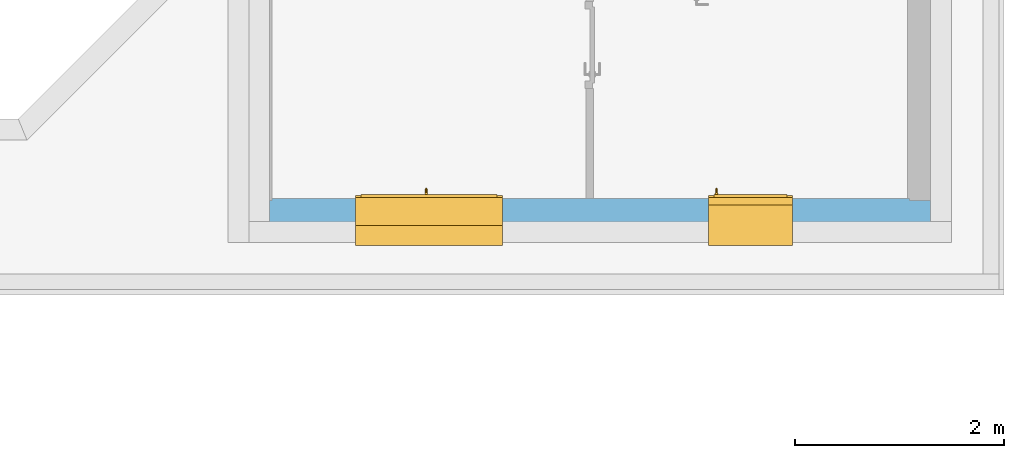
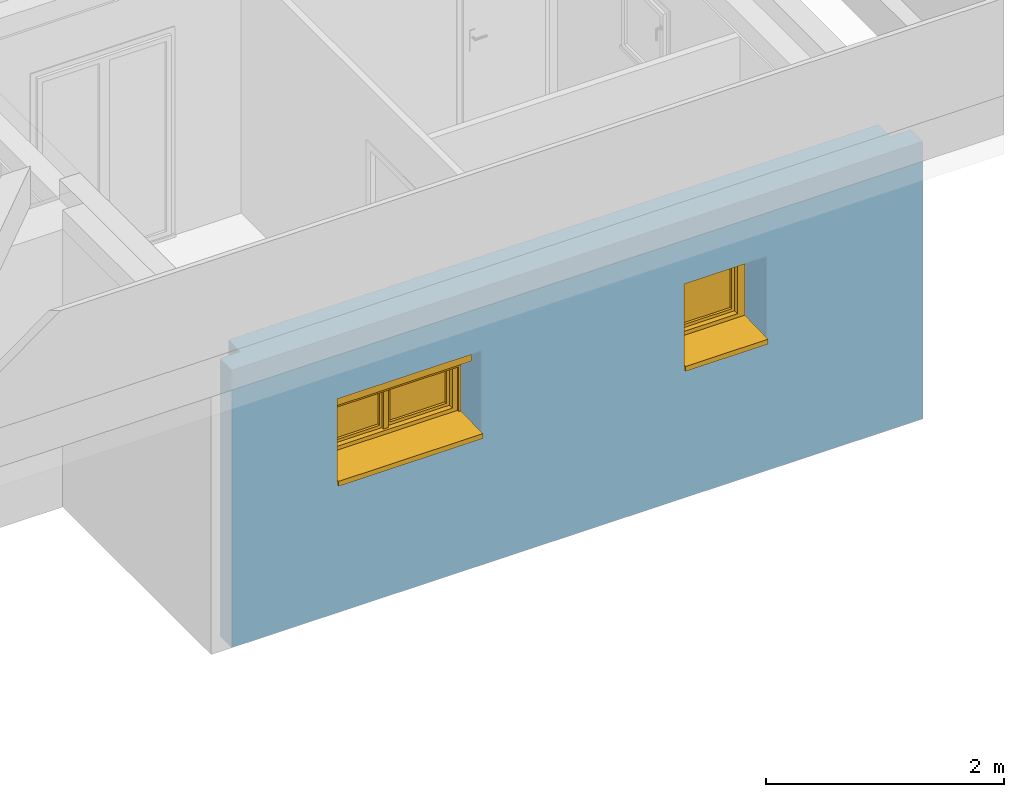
# One storey, part 13 of 16: 2 windows, 2 openings, plus 1 element that does not belong to this part.
"""IFC4 building model written with IfcOpenShell, lengths in metres."""

from ifc_helpers import new_model, entity, si_unit, converted_unit, frame, origin, origin_with_axes, place, context, subcontext, project, spatial, polyline, outline, extrude, clip, bounded_halfspace, closed_shell, open_shell, surface_model, source, transform, mapped, material, layer, layer_set, layer_usage, type_object, element, fill, save


model = new_model("IFC4")

# Units and contexts
model_context = context("Model", 3, precision=1e-05, world=origin())
body_context = subcontext(model_context, "Body", "Model", "MODEL_VIEW")
ifc_project = project(units=[si_unit("LENGTHUNIT", "METRE"), si_unit("AREAUNIT", "SQUARE_METRE"), si_unit("VOLUMEUNIT", "CUBIC_METRE"), si_unit("MASSUNIT", "GRAM", prefix="KILO"), converted_unit("PLANEANGLEUNIT", "DEGREE", entity("IfcPlaneAngleMeasure", 0.0174532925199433), si_unit("PLANEANGLEUNIT", "RADIAN"), dimensions=[0, 0, 0, 0, 0, 0, 0])], contexts=[model_context])

# Building, storey
building_placement = place(None, origin())
building = spatial("IfcBuilding", under=ifc_project, at=building_placement, Name="Projet de Construction", CompositionType="ELEMENT")
storey_placement = place(building_placement, frame((0.0, 0.0, -0.05)))
storey = spatial("IfcBuildingStorey", under=building, at=storey_placement, Name="RDC", CompositionType="ELEMENT", Elevation=-0.05)

# Wall, openings, windows
ifc_material_1 = material()
ifc_layer_1 = layer(ifc_material_1, 0.200000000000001)
ifc_material_2 = material()
ifc_layer_2 = layer(ifc_material_2, 0.2)
ifc_material_3 = material()
ifc_layer_3 = layer(ifc_material_3, 0.02)
ifc_layer_set = layer_set([ifc_layer_1, ifc_layer_2, ifc_layer_3])
ifc_layer_usage = layer_usage(ifc_layer_set, "AXIS2", "POSITIVE", 0.0)
wall_placement = place(storey_placement, frame((3.1540625, -1.20020833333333, 0.0)))
wall = element("IfcWall", 1, at=wall_placement, inside=storey, material=ifc_layer_usage, context=body_context, shape_type="Clipping", body=[
    clip(clip(extrude(outline(polyline([(0.0, 0.0), (6.71, 0.0), (6.71, 0.200000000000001), (6.51, 0.200000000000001), (6.51, 0.400000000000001), (6.31, 0.400000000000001), (6.31, 0.420000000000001), (0.22, 0.420000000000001), (0.22, 0.400000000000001), (0.2, 0.400000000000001), (0.2, 0.200000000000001), (0.0, 0.200000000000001), (0.0, 0.0)])), origin_with_axes(), (0.0, 0.0, 1.0), 2.85), bounded_halfspace(frame((3.265, 0.410000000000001, 0.05), z_axis=(0.0, 0.0, 1.0), x_axis=(0.0, -1.0, 0.0)), True, origin_with_axes(), polyline([(0.22, 0.420000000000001), (0.22, 0.400000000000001), (6.31, 0.400000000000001), (6.31, 0.420000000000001), (0.22, 0.420000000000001)]))), bounded_halfspace(frame((3.265, 0.410000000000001, 2.65), z_axis=(0.0, 0.0, -1.0), x_axis=(1.0, 0.0, 0.0)), True, origin_with_axes(), polyline([(0.22, 0.400000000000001), (6.31, 0.400000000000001), (6.31, 0.420000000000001), (0.22, 0.420000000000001), (0.22, 0.400000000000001)]))),
])
opening_1_placement = place(wall_placement, frame((5.19, 0.200000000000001, 1.35), z_axis=(0.0, -1.0, 0.0), x_axis=(0.0, 0.0, 1.0)))
opening_1 = element("IfcOpeningStandardCase", 2, at=opening_1_placement, cuts=wall, Name="Baie de fenêtre", PredefinedType="OPENING", context=body_context, shape_type="SweptSolid", body=[
    extrude(outline(polyline([(0.0, 0.8), (0.85, 0.8), (0.85, 0.0), (0.0, 0.0), (0.0, 0.8)])), origin_with_axes(), (0.0, 0.0, 1.0), 0.200000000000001),
    extrude(outline(polyline([(0.0, 0.8), (0.85, 0.8), (0.85, 0.0), (0.0, 0.0), (0.0, 0.8)])), frame((0.0, 0.0, -0.2), z_axis=(0.0, 0.0, 1.0), x_axis=(1.0, 0.0, 0.0)), (0.0, 0.0, 1.0), 0.2),
    extrude(outline(polyline([(0.0, 0.8), (0.85, 0.8), (0.85, 0.0), (0.0, 0.0), (0.0, 0.8)])), frame((0.0, 0.0, -0.22), z_axis=(0.0, 0.0, 1.0), x_axis=(1.0, 0.0, 0.0)), (0.0, 0.0, 1.0), 0.02),
])
opening_2_placement = place(wall_placement, frame((2.42, 0.200000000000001, 1.35), z_axis=(0.0, -1.0, 0.0), x_axis=(0.0, 0.0, 1.0)))
opening_2 = element("IfcOpeningStandardCase", 3, at=opening_2_placement, cuts=wall, Name="Baie de fenêtre", PredefinedType="OPENING", context=body_context, shape_type="SweptSolid", body=[
    extrude(outline(polyline([(0.0, 1.4), (0.85, 1.4), (0.85, 0.0), (0.0, 0.0), (0.0, 1.4)])), origin_with_axes(), (0.0, 0.0, 1.0), 0.200000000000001),
    extrude(outline(polyline([(0.0, 1.4), (0.85, 1.4), (0.85, 0.0), (0.0, 0.0), (0.0, 1.4)])), frame((0.0, 0.0, -0.2), z_axis=(0.0, 0.0, 1.0), x_axis=(1.0, 0.0, 0.0)), (0.0, 0.0, 1.0), 0.2),
    extrude(outline(polyline([(0.0, 1.4), (0.85, 1.4), (0.85, 0.0), (0.0, 0.0), (0.0, 1.4)])), frame((0.0, 0.0, -0.22), z_axis=(0.0, 0.0, 1.0), x_axis=(1.0, 0.0, 0.0)), (0.0, 0.0, 1.0), 0.02),
])
ifc_material_4 = material()
window_type_1 = type_object("IfcWindowType", Name="1 vantail blanc", ParameterTakesPrecedence=False, PartitioningType="SINGLE_PANEL", PredefinedType="WINDOW")
shared_shape_1 = source(origin_with_axes(), body_context, "Body", "SurfaceModel", [
    surface_model("IfcShellBasedSurfaceModel", [(0.0, -0.37, 0.0), (0.0, 0.0, 0.0), (0.0, 0.0, 0.03), (0.0, -0.39, 0.02), (0.0, -0.39, -0.03), (0.0, -0.37, -0.03), (0.8, -2.27373675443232e-16, 0.0), (0.8, -0.37, 0.0), (0.8, -0.37, -0.03), (0.8, -0.39, -0.03), (0.8, -0.39, 0.02), (0.8, -2.27373675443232e-16, 0.03)], [closed_shell([[[0, 1, 2, 3, 4, 5]], [[6, 7, 8, 9, 10, 11]], [[1, 0, 7, 6]], [[2, 1, 6, 11]], [[3, 2, 11, 10]], [[4, 3, 10, 9]], [[5, 4, 9, 8]], [[0, 5, 8, 7]]], orient=[[False], [False], [False], [False], [False], [False], [False], [False]])]),
    surface_model("IfcShellBasedSurfaceModel", [(0.0, 0.09, 0.0), (0.0, 0.09, 0.03), (0.0, 0.04, 0.03), (0.0, 0.04, 0.0), (0.8, 0.0399999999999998, 0.0), (0.8, 0.0399999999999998, 0.03), (0.8, 0.0899999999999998, 0.03), (0.8, 0.0899999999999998, 0.0)], [closed_shell([[[0, 1, 2, 3]], [[4, 5, 6, 7]], [[3, 4, 7, 0]], [[2, 5, 4, 3]], [[1, 6, 5, 2]], [[0, 7, 6, 1]]], orient=[[False], [False], [False], [False], [False], [False]])]),
    surface_model("IfcShellBasedSurfaceModel", [(0.0, 0.0700000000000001, 0.85), (0.0, 0.07, 0.0), (0.07, 0.07, 0.0), (0.07, 0.0700000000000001, 0.85), (0.0, 0.0, 0.0), (0.0, 1.13686837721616e-16, 0.85), (0.07, 1.13686837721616e-16, 0.85), (0.07, 0.0, 0.0)], [closed_shell([[[0, 1, 2, 3]], [[4, 5, 6, 7]], [[1, 0, 5, 4]], [[2, 1, 4, 7]], [[3, 2, 7, 6]], [[0, 3, 6, 5]]], orient=[[False], [False], [False], [False], [False], [False]])]),
    surface_model("IfcShellBasedSurfaceModel", [(0.73, 0.0699999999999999, 0.85), (0.73, 0.0699999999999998, 0.0), (0.8, 0.0699999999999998, 0.0), (0.8, 0.0699999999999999, 0.85), (0.73, -2.27373675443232e-16, 0.0), (0.73, -1.13686837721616e-16, 0.85), (0.8, -1.13686837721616e-16, 0.85), (0.8, -2.27373675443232e-16, 0.0)], [closed_shell([[[0, 1, 2, 3]], [[4, 5, 6, 7]], [[1, 0, 5, 4]], [[2, 1, 4, 7]], [[3, 2, 7, 6]], [[0, 3, 6, 5]]], orient=[[False], [False], [False], [False], [False], [False]])]),
    surface_model("IfcShellBasedSurfaceModel", [(0.07, 0.07, 0.07), (0.07, 0.07, 0.0), (0.73, 0.0699999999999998, 0.0), (0.73, 0.0699999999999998, 0.07), (0.07, 0.0, 0.0), (0.07, 0.0, 0.07), (0.73, -1.13686837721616e-16, 0.07), (0.73, -2.27373675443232e-16, 0.0)], [closed_shell([[[0, 1, 2, 3]], [[4, 5, 6, 7]], [[1, 0, 5, 4]], [[2, 1, 4, 7]], [[3, 2, 7, 6]], [[0, 3, 6, 5]]], orient=[[False], [False], [False], [False], [False], [False]])]),
    surface_model("IfcShellBasedSurfaceModel", [(0.07, 0.0700000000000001, 0.85), (0.07, 0.0700000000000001, 0.78), (0.73, 0.0699999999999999, 0.78), (0.73, 0.0699999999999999, 0.85), (0.07, 1.13686837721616e-16, 0.78), (0.07, 1.13686837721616e-16, 0.85), (0.73, -1.13686837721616e-16, 0.85), (0.73, -1.13686837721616e-16, 0.78)], [closed_shell([[[0, 1, 2, 3]], [[4, 5, 6, 7]], [[1, 0, 5, 4]], [[2, 1, 4, 7]], [[3, 2, 7, 6]], [[0, 3, 6, 5]]], orient=[[False], [False], [False], [False], [False], [False]])]),
    surface_model("IfcShellBasedSurfaceModel", [(0.05, 0.1, 0.8), (0.05, 0.1, 0.05), (0.1, 0.1, 0.05), (0.1, 0.1, 0.8), (0.05, 0.05, 0.05), (0.05, 0.0500000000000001, 0.8), (0.1, 0.0500000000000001, 0.8), (0.1, 0.05, 0.05)], [closed_shell([[[0, 1, 2, 3]], [[4, 5, 6, 7]], [[1, 0, 5, 4]], [[2, 1, 4, 7]], [[3, 2, 7, 6]], [[0, 3, 6, 5]]], orient=[[False], [False], [False], [False], [False], [False]])]),
    surface_model("IfcShellBasedSurfaceModel", [(0.7, 0.0999999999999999, 0.8), (0.7, 0.0999999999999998, 0.05), (0.75, 0.0999999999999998, 0.05), (0.75, 0.0999999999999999, 0.8), (0.7, 0.0499999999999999, 0.05), (0.7, 0.0499999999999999, 0.8), (0.75, 0.0499999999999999, 0.8), (0.75, 0.0499999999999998, 0.05)], [closed_shell([[[0, 1, 2, 3]], [[4, 5, 6, 7]], [[1, 0, 5, 4]], [[2, 1, 4, 7]], [[3, 2, 7, 6]], [[0, 3, 6, 5]]], orient=[[False], [False], [False], [False], [False], [False]])]),
    surface_model("IfcShellBasedSurfaceModel", [(0.1, 0.1, 0.1), (0.1, 0.1, 0.05), (0.7, 0.0999999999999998, 0.05), (0.7, 0.0999999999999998, 0.1), (0.1, 0.05, 0.05), (0.1, 0.05, 0.1), (0.7, 0.0499999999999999, 0.1), (0.7, 0.0499999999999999, 0.05)], [closed_shell([[[0, 1, 2, 3]], [[4, 5, 6, 7]], [[1, 0, 5, 4]], [[2, 1, 4, 7]], [[3, 2, 7, 6]], [[0, 3, 6, 5]]], orient=[[False], [False], [False], [False], [False], [False]])]),
    surface_model("IfcShellBasedSurfaceModel", [(0.1, 0.1, 0.8), (0.1, 0.1, 0.75), (0.7, 0.0999999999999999, 0.75), (0.7, 0.0999999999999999, 0.8), (0.1, 0.0500000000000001, 0.75), (0.1, 0.0500000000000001, 0.8), (0.7, 0.0499999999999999, 0.8), (0.7, 0.0499999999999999, 0.75)], [closed_shell([[[0, 1, 2, 3]], [[4, 5, 6, 7]], [[1, 0, 5, 4]], [[2, 1, 4, 7]], [[3, 2, 7, 6]], [[0, 3, 6, 5]]], orient=[[False], [False], [False], [False], [False], [False]])]),
    surface_model("IfcShellBasedSurfaceModel", [(0.0625, 0.1, 0.67), (0.0875, 0.1, 0.67), (0.0875, 0.1, 0.63), (0.0625, 0.1, 0.63), (0.0625, 0.11, 0.63), (0.0875, 0.11, 0.63), (0.0875, 0.11, 0.67), (0.0625, 0.11, 0.67)], [closed_shell([[[0, 1, 2, 3]], [[4, 5, 6, 7]], [[3, 4, 7, 0]], [[2, 5, 4, 3]], [[1, 6, 5, 2]], [[0, 7, 6, 1]]], orient=[[False], [False], [False], [False], [False], [False]])]),
    surface_model("IfcShellBasedSurfaceModel", [(0.085, 0.11, 0.65), (0.0836602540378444, 0.11, 0.645), (0.08, 0.11, 0.641339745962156), (0.075, 0.11, 0.64), (0.07, 0.11, 0.641339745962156), (0.0663397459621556, 0.11, 0.645), (0.065, 0.11, 0.65), (0.0663397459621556, 0.11, 0.655), (0.07, 0.11, 0.658660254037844), (0.075, 0.11, 0.66), (0.08, 0.11, 0.658660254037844), (0.0836602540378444, 0.11, 0.655), (0.0836602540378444, 0.155, 0.655), (0.085, 0.15, 0.65), (0.08, 0.158660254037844, 0.658660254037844), (0.075, 0.16, 0.66), (0.07, 0.158660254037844, 0.658660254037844), (0.0663397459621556, 0.155, 0.655), (0.065, 0.15, 0.65), (0.0663397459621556, 0.145, 0.645), (0.07, 0.141339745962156, 0.641339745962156), (0.075, 0.14, 0.64), (0.08, 0.141339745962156, 0.641339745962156), (0.0836602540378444, 0.145, 0.645), (0.085, 0.15, 0.535), (0.0836602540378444, 0.155, 0.535), (0.08, 0.158660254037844, 0.535), (0.075, 0.16, 0.535), (0.07, 0.158660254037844, 0.535), (0.0663397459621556, 0.155, 0.535), (0.065, 0.15, 0.535), (0.0663397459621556, 0.145, 0.535), (0.07, 0.141339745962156, 0.535), (0.075, 0.14, 0.535), (0.08, 0.141339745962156, 0.535), (0.0836602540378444, 0.145, 0.535)], [closed_shell([[[0, 1, 2, 3, 4, 5, 6, 7, 8, 9, 10, 11]], [[0, 11, 12, 13]], [[11, 10, 14, 12]], [[10, 9, 15, 14]], [[9, 8, 16, 15]], [[8, 7, 17, 16]], [[7, 6, 18, 17]], [[6, 5, 19, 18]], [[5, 4, 20, 19]], [[4, 3, 21, 20]], [[3, 2, 22, 21]], [[2, 1, 23, 22]], [[1, 0, 13, 23]], [[24, 25, 26, 27, 28, 29, 30, 31, 32, 33, 34, 35]], [[13, 12, 25, 24]], [[12, 14, 26, 25]], [[14, 15, 27, 26]], [[15, 16, 28, 27]], [[16, 17, 29, 28]], [[17, 18, 30, 29]], [[18, 19, 31, 30]], [[19, 20, 32, 31]], [[20, 21, 33, 32]], [[21, 22, 34, 33]], [[22, 23, 35, 34]], [[23, 13, 24, 35]]], orient=[[False], [False], [False], [False], [False], [False], [False], [False], [False], [False], [False], [False], [False], [False], [False], [False], [False], [False], [False], [False], [False], [False], [False], [False], [False], [False]])]),
    surface_model("IfcShellBasedSurfaceModel", [(0.1, 0.075, 0.1), (0.7, 0.0749999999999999, 0.1), (0.7, 0.0749999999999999, 0.75), (0.1, 0.0750000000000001, 0.75)], [open_shell([[[0, 1, 2, 3]]], orient=[[False]])]),
])
window_1_placement = place(opening_1_placement, frame((0.0, 0.8, -0.16), z_axis=(1.0, 0.0, 0.0), x_axis=(0.0, -1.0, 0.0)))
window_1 = element("IfcWindow", 4, at=window_1_placement, inside=storey, type_object=window_type_1, material=ifc_material_4, Name="1 vantail blanc", OverallHeight=0.85, OverallWidth=0.8, context=body_context, shape_type="MappedRepresentation", body=[
    mapped(shared_shape_1, transform((0.0, 0.0, 0.0), x_axis=(1.0, 0.0, 0.0), y_axis=(0.0, 1.0, 0.0), z_axis=(0.0, 0.0, 1.0), scale=1.0)),
])
fill(opening_1, window_1)
ifc_material_5 = material()
window_type_2 = type_object("IfcWindowType", Name="3 vantaux blanc, monté", ParameterTakesPrecedence=False, PartitioningType="DOUBLE_PANEL_VERTICAL", PredefinedType="WINDOW")
shared_shape_2 = source(origin_with_axes(), body_context, "Body", "SurfaceModel", [
    surface_model("IfcShellBasedSurfaceModel", [(0.0, -0.37, 0.0), (0.0, 0.0, 0.0), (0.0, 0.0, 0.03), (0.0, -0.39, 0.02), (0.0, -0.39, -0.03), (0.0, -0.37, -0.03), (1.4, -3.41060513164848e-16, 2.27373675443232e-16), (1.4, -0.37, 2.27373675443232e-16), (1.4, -0.37, -0.0299999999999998), (1.4, -0.39, -0.0299999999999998), (1.4, -0.39, 0.0200000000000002), (1.4, -3.41060513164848e-16, 0.0300000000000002)], [closed_shell([[[0, 1, 2, 3, 4, 5]], [[6, 7, 8, 9, 10, 11]], [[1, 0, 7, 6]], [[2, 1, 6, 11]], [[3, 2, 11, 10]], [[4, 3, 10, 9]], [[5, 4, 9, 8]], [[0, 5, 8, 7]]], orient=[[False], [False], [False], [False], [False], [False], [False], [False]])]),
    surface_model("IfcShellBasedSurfaceModel", [(0.0, 0.09, 0.0), (0.0, 0.09, 0.03), (0.0, 0.04, 0.03), (0.0, 0.04, 0.0), (1.4, 0.0399999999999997, 2.27373675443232e-16), (1.4, 0.0399999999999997, 0.0300000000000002), (1.4, 0.0899999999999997, 0.0300000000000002), (1.4, 0.0899999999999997, 2.27373675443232e-16)], [closed_shell([[[0, 1, 2, 3]], [[4, 5, 6, 7]], [[3, 4, 7, 0]], [[2, 5, 4, 3]], [[1, 6, 5, 2]], [[0, 7, 6, 1]]], orient=[[False], [False], [False], [False], [False], [False]])]),
    surface_model("IfcShellBasedSurfaceModel", [(0.0, 1.13686837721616e-16, 0.85), (0.0, 1.13686837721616e-16, 0.65), (1.4, -2.27373675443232e-16, 0.65), (1.4, -2.27373675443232e-16, 0.85), (0.0, -0.2, 0.65), (0.0, -0.2, 0.85), (1.4, -0.2, 0.85), (1.4, -0.2, 0.65)], [closed_shell([[[0, 1, 2, 3]], [[4, 5, 6, 7]], [[1, 0, 5, 4]], [[2, 1, 4, 7]], [[3, 2, 7, 6]], [[0, 3, 6, 5]]], orient=[[False], [False], [False], [False], [False], [False]])]),
    surface_model("IfcShellBasedSurfaceModel", [(0.0, 1.13686837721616e-16, 0.65), (0.0, 0.0, 0.0), (0.02, 0.0, 0.0), (0.02, 1.13686837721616e-16, 0.65), (0.0, -0.02, 0.0), (0.0, -0.0199999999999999, 0.65), (0.02, -0.0199999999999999, 0.65), (0.02, -0.02, 0.0)], [closed_shell([[[0, 1, 2, 3]], [[4, 5, 6, 7]], [[1, 0, 5, 4]], [[2, 1, 4, 7]], [[3, 2, 7, 6]], [[0, 3, 6, 5]]], orient=[[False], [False], [False], [False], [False], [False]])]),
    surface_model("IfcShellBasedSurfaceModel", [(1.38, -2.27373675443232e-16, 0.65), (1.38, -3.41060513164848e-16, 0.0), (1.4, -3.41060513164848e-16, 0.0), (1.4, -2.27373675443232e-16, 0.65), (1.38, -0.0200000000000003, 0.0), (1.38, -0.0200000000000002, 0.65), (1.4, -0.0200000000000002, 0.65), (1.4, -0.0200000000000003, 0.0)], [closed_shell([[[0, 1, 2, 3]], [[4, 5, 6, 7]], [[1, 0, 5, 4]], [[2, 1, 4, 7]], [[3, 2, 7, 6]], [[0, 3, 6, 5]]], orient=[[False], [False], [False], [False], [False], [False]])]),
    surface_model("IfcShellBasedSurfaceModel", [(0.01, -0.00499999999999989, 0.645), (0.01, -0.00499999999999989, 0.595), (1.39, -0.00500000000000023, 0.595), (1.39, -0.00500000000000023, 0.645), (0.01, -0.0149999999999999, 0.595), (0.01, -0.0149999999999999, 0.645), (1.39, -0.0150000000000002, 0.645), (1.39, -0.0150000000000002, 0.595)], [closed_shell([[[0, 1, 2, 3]], [[4, 5, 6, 7]], [[1, 0, 5, 4]], [[2, 1, 4, 7]], [[3, 2, 7, 6]], [[0, 3, 6, 5]]], orient=[[False], [False], [False], [False], [False], [False]])]),
    surface_model("IfcShellBasedSurfaceModel", [(0.01, -0.00499999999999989, 0.59), (0.01, -0.00499999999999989, 0.54), (1.39, -0.00500000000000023, 0.54), (1.39, -0.00500000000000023, 0.59), (0.01, -0.015, 0.54), (0.01, -0.0149999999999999, 0.59), (1.39, -0.0150000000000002, 0.59), (1.39, -0.0150000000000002, 0.54)], [closed_shell([[[0, 1, 2, 3]], [[4, 5, 6, 7]], [[1, 0, 5, 4]], [[2, 1, 4, 7]], [[3, 2, 7, 6]], [[0, 3, 6, 5]]], orient=[[False], [False], [False], [False], [False], [False]])]),
    surface_model("IfcShellBasedSurfaceModel", [(0.01, -0.00499999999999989, 0.535), (0.01, -0.005, 0.485), (1.39, -0.00500000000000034, 0.485), (1.39, -0.00500000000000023, 0.535), (0.01, -0.015, 0.485), (0.01, -0.015, 0.535), (1.39, -0.0150000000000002, 0.535), (1.39, -0.0150000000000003, 0.485)], [closed_shell([[[0, 1, 2, 3]], [[4, 5, 6, 7]], [[1, 0, 5, 4]], [[2, 1, 4, 7]], [[3, 2, 7, 6]], [[0, 3, 6, 5]]], orient=[[False], [False], [False], [False], [False], [False]])]),
    surface_model("IfcShellBasedSurfaceModel", [(0.0, 0.0700000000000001, 0.85), (0.0, 0.07, 0.0), (0.07, 0.07, 0.0), (0.07, 0.0700000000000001, 0.85), (0.0, 0.0, 0.0), (0.0, 1.13686837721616e-16, 0.85), (0.07, 1.13686837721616e-16, 0.85), (0.07, 0.0, 0.0)], [closed_shell([[[0, 1, 2, 3]], [[4, 5, 6, 7]], [[1, 0, 5, 4]], [[2, 1, 4, 7]], [[3, 2, 7, 6]], [[0, 3, 6, 5]]], orient=[[False], [False], [False], [False], [False], [False]])]),
    surface_model("IfcShellBasedSurfaceModel", [(1.33, 0.0699999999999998, 0.85), (1.33, 0.0699999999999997, 0.0), (1.4, 0.0699999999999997, 0.0), (1.4, 0.0699999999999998, 0.85), (1.33, -3.41060513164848e-16, 0.0), (1.33, -2.27373675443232e-16, 0.85), (1.4, -2.27373675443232e-16, 0.85), (1.4, -3.41060513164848e-16, 0.0)], [closed_shell([[[0, 1, 2, 3]], [[4, 5, 6, 7]], [[1, 0, 5, 4]], [[2, 1, 4, 7]], [[3, 2, 7, 6]], [[0, 3, 6, 5]]], orient=[[False], [False], [False], [False], [False], [False]])]),
    surface_model("IfcShellBasedSurfaceModel", [(0.07, 0.07, 0.07), (0.07, 0.07, 0.0), (1.33, 0.0699999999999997, 0.0), (1.33, 0.0699999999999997, 0.07), (0.07, 0.0, 0.0), (0.07, 0.0, 0.07), (1.33, -3.41060513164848e-16, 0.07), (1.33, -3.41060513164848e-16, 0.0)], [closed_shell([[[0, 1, 2, 3]], [[4, 5, 6, 7]], [[1, 0, 5, 4]], [[2, 1, 4, 7]], [[3, 2, 7, 6]], [[0, 3, 6, 5]]], orient=[[False], [False], [False], [False], [False], [False]])]),
    surface_model("IfcShellBasedSurfaceModel", [(0.07, 0.0700000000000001, 0.85), (0.07, 0.0700000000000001, 0.78), (1.33, 0.0699999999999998, 0.78), (1.33, 0.0699999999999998, 0.85), (0.07, 1.13686837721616e-16, 0.78), (0.07, 1.13686837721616e-16, 0.85), (1.33, -2.27373675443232e-16, 0.85), (1.33, -2.27373675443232e-16, 0.78)], [closed_shell([[[0, 1, 2, 3]], [[4, 5, 6, 7]], [[1, 0, 5, 4]], [[2, 1, 4, 7]], [[3, 2, 7, 6]], [[0, 3, 6, 5]]], orient=[[False], [False], [False], [False], [False], [False]])]),
    surface_model("IfcShellBasedSurfaceModel", [(0.05, 0.1, 0.8), (0.05, 0.1, 0.05), (0.1, 0.1, 0.05), (0.1, 0.1, 0.8), (0.05, 0.05, 0.05), (0.05, 0.0500000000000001, 0.8), (0.1, 0.0500000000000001, 0.8), (0.1, 0.05, 0.05)], [closed_shell([[[0, 1, 2, 3]], [[4, 5, 6, 7]], [[1, 0, 5, 4]], [[2, 1, 4, 7]], [[3, 2, 7, 6]], [[0, 3, 6, 5]]], orient=[[False], [False], [False], [False], [False], [False]])]),
    surface_model("IfcShellBasedSurfaceModel", [(0.6495, 0.1, 0.8), (0.6495, 0.0999999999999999, 0.05), (0.6995, 0.0999999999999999, 0.05), (0.6995, 0.0999999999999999, 0.8), (0.6495, 0.0499999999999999, 0.05), (0.6495, 0.05, 0.8), (0.6995, 0.0499999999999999, 0.8), (0.6995, 0.0499999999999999, 0.05)], [closed_shell([[[0, 1, 2, 3]], [[4, 5, 6, 7]], [[1, 0, 5, 4]], [[2, 1, 4, 7]], [[3, 2, 7, 6]], [[0, 3, 6, 5]]], orient=[[False], [False], [False], [False], [False], [False]])]),
    surface_model("IfcShellBasedSurfaceModel", [(0.1, 0.1, 0.1), (0.1, 0.1, 0.05), (0.6495, 0.0999999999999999, 0.05), (0.6495, 0.0999999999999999, 0.1), (0.1, 0.05, 0.05), (0.1, 0.05, 0.1), (0.6495, 0.0499999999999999, 0.1), (0.6495, 0.0499999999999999, 0.05)], [closed_shell([[[0, 1, 2, 3]], [[4, 5, 6, 7]], [[1, 0, 5, 4]], [[2, 1, 4, 7]], [[3, 2, 7, 6]], [[0, 3, 6, 5]]], orient=[[False], [False], [False], [False], [False], [False]])]),
    surface_model("IfcShellBasedSurfaceModel", [(0.1, 0.1, 0.8), (0.1, 0.1, 0.75), (0.6495, 0.1, 0.75), (0.6495, 0.1, 0.8), (0.1, 0.0500000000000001, 0.75), (0.1, 0.0500000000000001, 0.8), (0.6495, 0.05, 0.8), (0.6495, 0.05, 0.75)], [closed_shell([[[0, 1, 2, 3]], [[4, 5, 6, 7]], [[1, 0, 5, 4]], [[2, 1, 4, 7]], [[3, 2, 7, 6]], [[0, 3, 6, 5]]], orient=[[False], [False], [False], [False], [False], [False]])]),
    surface_model("IfcShellBasedSurfaceModel", [(0.6745, 0.0499999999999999, 0.78), (0.6745, 0.0499999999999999, 0.07), (0.7245, 0.0499999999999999, 0.07), (0.7245, 0.0499999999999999, 0.78), (0.6745, 0.0249999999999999, 0.07), (0.6745, 0.0249999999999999, 0.78), (0.7245, 0.0249999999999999, 0.78), (0.7245, 0.0249999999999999, 0.07)], [closed_shell([[[0, 1, 2, 3]], [[4, 5, 6, 7]], [[1, 0, 5, 4]], [[2, 1, 4, 7]], [[3, 2, 7, 6]], [[0, 3, 6, 5]]], orient=[[False], [False], [False], [False], [False], [False]])]),
    surface_model("IfcShellBasedSurfaceModel", [(0.662, 0.0999999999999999, 0.57), (0.687, 0.0999999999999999, 0.57), (0.687, 0.0999999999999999, 0.53), (0.662, 0.0999999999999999, 0.53), (0.662, 0.11, 0.53), (0.687, 0.11, 0.53), (0.687, 0.11, 0.57), (0.662, 0.11, 0.57)], [closed_shell([[[0, 1, 2, 3]], [[4, 5, 6, 7]], [[3, 4, 7, 0]], [[2, 5, 4, 3]], [[1, 6, 5, 2]], [[0, 7, 6, 1]]], orient=[[False], [False], [False], [False], [False], [False]])]),
    surface_model("IfcShellBasedSurfaceModel", [(0.6845, 0.11, 0.55), (0.683160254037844, 0.11, 0.545), (0.6795, 0.11, 0.541339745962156), (0.6745, 0.11, 0.54), (0.6695, 0.11, 0.541339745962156), (0.665839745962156, 0.11, 0.545), (0.6645, 0.11, 0.55), (0.665839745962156, 0.11, 0.555), (0.6695, 0.11, 0.558660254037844), (0.6745, 0.11, 0.56), (0.6795, 0.11, 0.558660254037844), (0.683160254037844, 0.11, 0.555), (0.683160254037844, 0.155, 0.555), (0.6845, 0.15, 0.55), (0.6795, 0.158660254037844, 0.558660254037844), (0.6745, 0.16, 0.56), (0.6695, 0.158660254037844, 0.558660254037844), (0.665839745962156, 0.155, 0.555), (0.6645, 0.15, 0.55), (0.665839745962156, 0.145, 0.545), (0.6695, 0.141339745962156, 0.541339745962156), (0.6745, 0.14, 0.54), (0.6795, 0.141339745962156, 0.541339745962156), (0.683160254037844, 0.145, 0.545), (0.6845, 0.15, 0.435), (0.683160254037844, 0.155, 0.435), (0.6795, 0.158660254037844, 0.435), (0.6745, 0.16, 0.435), (0.6695, 0.158660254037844, 0.435), (0.665839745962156, 0.155, 0.435), (0.6645, 0.15, 0.435), (0.665839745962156, 0.145, 0.435), (0.6695, 0.141339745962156, 0.435), (0.6745, 0.14, 0.435), (0.6795, 0.141339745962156, 0.435), (0.683160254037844, 0.145, 0.435)], [closed_shell([[[0, 1, 2, 3, 4, 5, 6, 7, 8, 9, 10, 11]], [[0, 11, 12, 13]], [[11, 10, 14, 12]], [[10, 9, 15, 14]], [[9, 8, 16, 15]], [[8, 7, 17, 16]], [[7, 6, 18, 17]], [[6, 5, 19, 18]], [[5, 4, 20, 19]], [[4, 3, 21, 20]], [[3, 2, 22, 21]], [[2, 1, 23, 22]], [[1, 0, 13, 23]], [[24, 25, 26, 27, 28, 29, 30, 31, 32, 33, 34, 35]], [[13, 12, 25, 24]], [[12, 14, 26, 25]], [[14, 15, 27, 26]], [[15, 16, 28, 27]], [[16, 17, 29, 28]], [[17, 18, 30, 29]], [[18, 19, 31, 30]], [[19, 20, 32, 31]], [[20, 21, 33, 32]], [[21, 22, 34, 33]], [[22, 23, 35, 34]], [[23, 13, 24, 35]]], orient=[[False], [False], [False], [False], [False], [False], [False], [False], [False], [False], [False], [False], [False], [False], [False], [False], [False], [False], [False], [False], [False], [False], [False], [False], [False], [False]])]),
    surface_model("IfcShellBasedSurfaceModel", [(0.7005, 0.0999999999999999, 0.8), (0.7005, 0.0999999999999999, 0.05), (0.7505, 0.0999999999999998, 0.05), (0.7505, 0.0999999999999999, 0.8), (0.7005, 0.0499999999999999, 0.05), (0.7005, 0.0499999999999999, 0.8), (0.7505, 0.0499999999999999, 0.8), (0.7505, 0.0499999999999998, 0.05)], [closed_shell([[[0, 1, 2, 3]], [[4, 5, 6, 7]], [[1, 0, 5, 4]], [[2, 1, 4, 7]], [[3, 2, 7, 6]], [[0, 3, 6, 5]]], orient=[[False], [False], [False], [False], [False], [False]])]),
    surface_model("IfcShellBasedSurfaceModel", [(1.3, 0.0999999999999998, 0.8), (1.3, 0.0999999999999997, 0.05), (1.35, 0.0999999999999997, 0.05), (1.35, 0.0999999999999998, 0.8), (1.3, 0.0499999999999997, 0.05), (1.3, 0.0499999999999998, 0.8), (1.35, 0.0499999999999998, 0.8), (1.35, 0.0499999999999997, 0.05)], [closed_shell([[[0, 1, 2, 3]], [[4, 5, 6, 7]], [[1, 0, 5, 4]], [[2, 1, 4, 7]], [[3, 2, 7, 6]], [[0, 3, 6, 5]]], orient=[[False], [False], [False], [False], [False], [False]])]),
    surface_model("IfcShellBasedSurfaceModel", [(0.7505, 0.0999999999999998, 0.1), (0.7505, 0.0999999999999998, 0.05), (1.3, 0.0999999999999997, 0.05), (1.3, 0.0999999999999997, 0.1), (0.7505, 0.0499999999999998, 0.05), (0.7505, 0.0499999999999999, 0.1), (1.3, 0.0499999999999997, 0.1), (1.3, 0.0499999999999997, 0.05)], [closed_shell([[[0, 1, 2, 3]], [[4, 5, 6, 7]], [[1, 0, 5, 4]], [[2, 1, 4, 7]], [[3, 2, 7, 6]], [[0, 3, 6, 5]]], orient=[[False], [False], [False], [False], [False], [False]])]),
    surface_model("IfcShellBasedSurfaceModel", [(0.7505, 0.0999999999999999, 0.8), (0.7505, 0.0999999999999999, 0.75), (1.3, 0.0999999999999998, 0.75), (1.3, 0.0999999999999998, 0.8), (0.7505, 0.0499999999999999, 0.75), (0.7505, 0.0499999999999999, 0.8), (1.3, 0.0499999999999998, 0.8), (1.3, 0.0499999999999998, 0.75)], [closed_shell([[[0, 1, 2, 3]], [[4, 5, 6, 7]], [[1, 0, 5, 4]], [[2, 1, 4, 7]], [[3, 2, 7, 6]], [[0, 3, 6, 5]]], orient=[[False], [False], [False], [False], [False], [False]])]),
    surface_model("IfcShellBasedSurfaceModel", [(0.1, 0.075, 0.1), (0.6495, 0.0749999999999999, 0.1), (0.6495, 0.075, 0.75), (0.1, 0.0750000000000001, 0.75)], [open_shell([[[0, 1, 2, 3]]], orient=[[False]])]),
    surface_model("IfcShellBasedSurfaceModel", [(0.7505, 0.0749999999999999, 0.1), (1.3, 0.0749999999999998, 0.1), (1.3, 0.0749999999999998, 0.75), (0.7505, 0.0749999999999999, 0.75)], [open_shell([[[0, 1, 2, 3]]], orient=[[False]])]),
])
window_2_placement = place(opening_2_placement, frame((0.0, 1.4, -0.16), z_axis=(1.0, 0.0, 0.0), x_axis=(0.0, -1.0, 0.0)))
window_2 = element("IfcWindow", 5, at=window_2_placement, inside=storey, type_object=window_type_2, material=ifc_material_5, Name="3 vantaux blanc, monté", OverallHeight=0.85, OverallWidth=1.4, context=body_context, shape_type="MappedRepresentation", body=[
    mapped(shared_shape_2, transform((0.0, 0.0, 0.0), x_axis=(1.0, 0.0, 0.0), y_axis=(0.0, 1.0, 0.0), z_axis=(0.0, 0.0, 1.0), scale=1.0)),
])
fill(opening_2, window_2)

save(model, "model.ifc")
